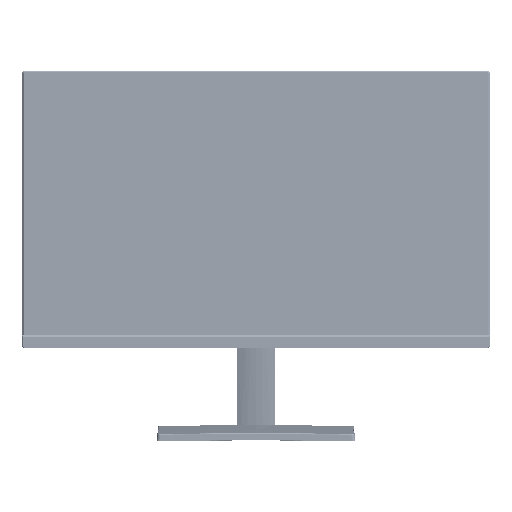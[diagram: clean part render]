
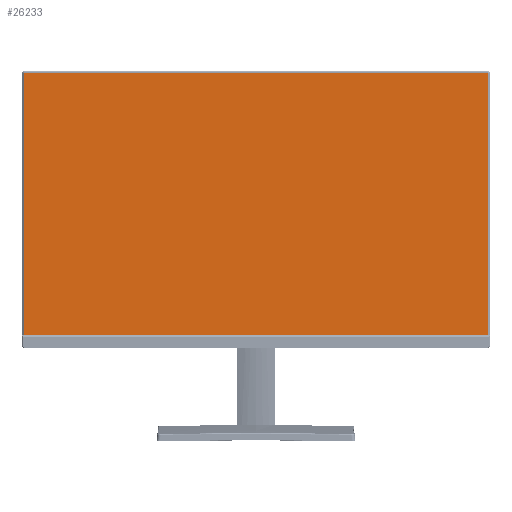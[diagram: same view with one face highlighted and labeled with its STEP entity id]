
A CAD part, top view. The second image highlights one B-rep face of the part: STEP entity #26233.
In plain terms, the highlighted planar face has unit normal (0, 0, 1).
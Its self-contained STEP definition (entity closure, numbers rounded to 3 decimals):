
#11149=FACE_OUTER_BOUND('',#48765,.T.);
#26233=ADVANCED_FACE('',(#11149),#37951,.T.);
#37951=PLANE('',#244396);
#48765=EDGE_LOOP('',(#94010,#94011,#94012,#94013,#94014,#94015));
#63294=B_SPLINE_CURVE_WITH_KNOTS('',2,(#340051,#340052,#340053,#340054,
#340055),.UNSPECIFIED.,.F.,.F.,(3,1,1,3),(0.,0.,0.007,
1.),.UNSPECIFIED.);
#63298=B_SPLINE_CURVE_WITH_KNOTS('',2,(#340081,#340082,#340083,#340084,
#340085,#340086,#340087),.UNSPECIFIED.,.F.,.F.,(3,1,1,1,1,3),(0.,0.01,
0.01,0.024,0.993,1.),
 .UNSPECIFIED.);
#94010=ORIENTED_EDGE('',*,*,#181698,.F.);
#94011=ORIENTED_EDGE('',*,*,#181702,.F.);
#94012=ORIENTED_EDGE('',*,*,#181705,.F.);
#94013=ORIENTED_EDGE('',*,*,#181708,.F.);
#94014=ORIENTED_EDGE('',*,*,#181711,.F.);
#94015=ORIENTED_EDGE('',*,*,#181713,.F.);
#155327=VERTEX_POINT('',#340023);
#155328=VERTEX_POINT('',#340025);
#155330=VERTEX_POINT('',#340038);
#155332=VERTEX_POINT('',#340050);
#155334=VERTEX_POINT('',#340065);
#155336=VERTEX_POINT('',#340080);
#181698=EDGE_CURVE('',#155327,#155328,#212687,.T.);
#181702=EDGE_CURVE('',#155330,#155327,#212688,.T.);
#181705=EDGE_CURVE('',#155332,#155330,#63294,.T.);
#181708=EDGE_CURVE('',#155334,#155332,#212691,.T.);
#181711=EDGE_CURVE('',#155336,#155334,#63298,.T.);
#181713=EDGE_CURVE('',#155328,#155336,#212692,.T.);
#212687=LINE('',#340024,#227605);
#212688=LINE('',#340039,#227606);
#212691=LINE('',#340066,#227610);
#212692=LINE('',#340099,#227612);
#227605=VECTOR('',#268928,1.);
#227606=VECTOR('',#268931,1.);
#227610=VECTOR('',#268937,1.);
#227612=VECTOR('',#268941,1.);
#244396=AXIS2_PLACEMENT_3D('',#340101,#268944,#268945);
#268928=DIRECTION('',(-1.,0.,0.));
#268931=DIRECTION('',(0.,-1.,0.));
#268937=DIRECTION('',(1.,0.,0.));
#268941=DIRECTION('',(0.,1.,0.));
#268944=DIRECTION('',(0.,0.,1.));
#268945=DIRECTION('',(-1.,0.,0.));
#340023=CARTESIAN_POINT('',(267.652,-148.65,-0.34));
#340024=CARTESIAN_POINT('',(281.2,-148.65,-0.34));
#340025=CARTESIAN_POINT('',(-267.652,-148.65,-0.34));
#340038=CARTESIAN_POINT('',(267.651,156.95,-0.34));
#340039=CARTESIAN_POINT('',(267.652,164.63,-0.34));
#340050=CARTESIAN_POINT('',(267.413,157.2,-0.34));
#340051=CARTESIAN_POINT('',(267.413,157.2,-0.34));
#340052=CARTESIAN_POINT('',(267.413,157.2,-0.34));
#340053=CARTESIAN_POINT('',(267.416,157.2,-0.34));
#340054=CARTESIAN_POINT('',(267.65,157.19,-0.34));
#340055=CARTESIAN_POINT('',(267.65,156.95,-0.34));
#340065=CARTESIAN_POINT('',(-267.413,157.2,-0.34));
#340066=CARTESIAN_POINT('',(0.,157.2,-0.34));
#340080=CARTESIAN_POINT('',(-267.651,156.95,-0.34));
#340081=CARTESIAN_POINT('',(-267.652,156.941,-0.34));
#340082=CARTESIAN_POINT('',(-267.651,156.945,-0.34));
#340083=CARTESIAN_POINT('',(-267.651,156.95,-0.34));
#340084=CARTESIAN_POINT('',(-267.65,156.956,-0.34));
#340085=CARTESIAN_POINT('',(-267.644,157.19,-0.34));
#340086=CARTESIAN_POINT('',(-267.416,157.2,-0.34));
#340087=CARTESIAN_POINT('',(-267.413,157.2,-0.34));
#340099=CARTESIAN_POINT('',(-267.652,163.318,-0.34));
#340101=CARTESIAN_POINT('',(281.2,164.63,-0.34));
